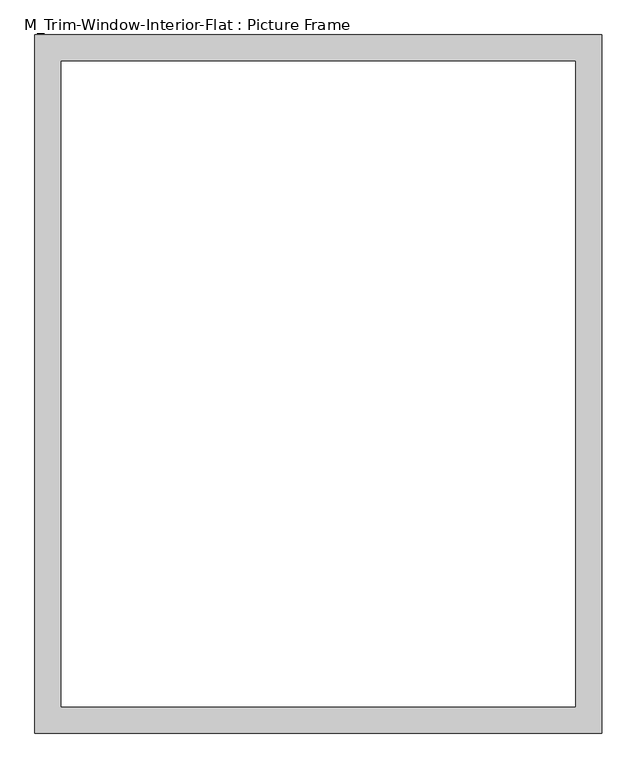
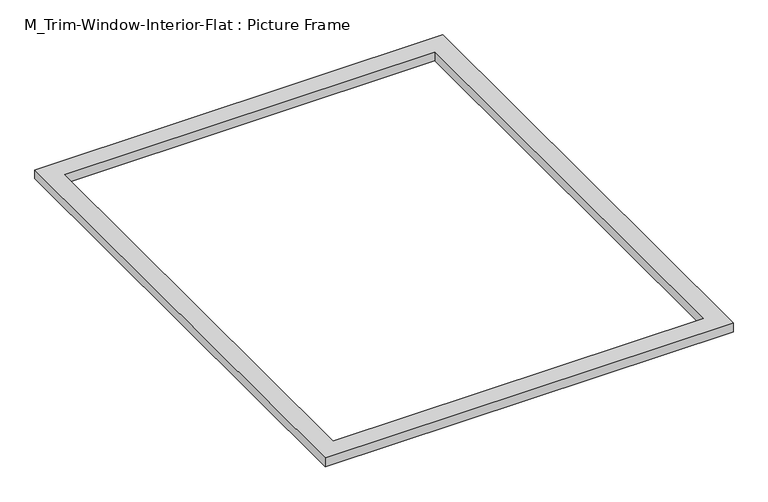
"""IFC4 building model written with IfcOpenShell, lengths in millimetres: proxy geometry, M_Trim-Window-Interior-Flat : Picture Frame."""

from ifc_helpers import new_model, si_unit, origin, origin_with_axes, place, context, project, spatial, polyline, outline, extrude, source, transform, mapped, element, save


def m_trim_window_interior_flat_picture_frame_5bf35ee4(model_context):
    return source(origin(), model_context, "Body", "SweptSolid", [
        extrude(outline(polyline([(647.3, 47.3), (647.3, -1547.3), (-647.3, -1547.3), (-647.3, 47.3), (647.3, 47.3)]), holes=[polyline([(587.3, -12.7), (-587.3, -12.7), (-587.3, -1487.3), (587.3, -1487.3), (587.3, -12.7)])]), origin_with_axes(), (0.0, 0.0, 1.0), 30.0),
    ])


if __name__ == "__main__":
    model = new_model("IFC4")
    model_context = context("Model", 3, world=origin())
    ifc_project = project(units=[si_unit("LENGTHUNIT", "METRE", prefix="MILLI")], contexts=[model_context])
    site = spatial("IfcSite", under=ifc_project)
    building = spatial("IfcBuilding", under=site)
    placement = place(None, origin())
    m_trim_window_interior_flat_picture_frame_shape = m_trim_window_interior_flat_picture_frame_5bf35ee4(model_context)
    element("IfcBuildingElementProxy", 1, Name="M_Trim-Window-Interior-Flat : Picture Frame", ObjectType="M_Trim-Window-Interior-Flat : Picture Frame", at=placement, inside=building, context=model_context, shape_type="MappedRepresentation", body=[
        mapped(m_trim_window_interior_flat_picture_frame_shape, transform((0.0, 0.0, 0.0), x_axis=(1.0, 0.0, 0.0), y_axis=(0.0, 1.0, 0.0), z_axis=(0.0, 0.0, 1.0))),
    ])
    save(model, "model.ifc")
